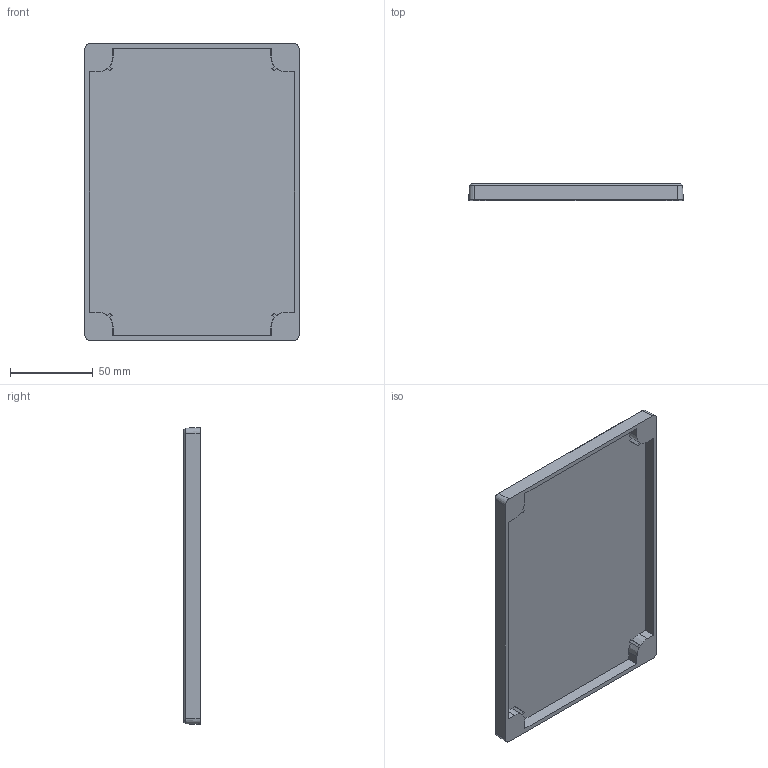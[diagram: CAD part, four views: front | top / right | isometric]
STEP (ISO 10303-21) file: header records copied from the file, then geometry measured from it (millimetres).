
FILE_DESCRIPTION (( 'STEP AP203' ), '1' );
FILE_NAME ('FIBOX_MNX15010C.STEP', '2005-06-30T06:50:23', ( ' ' ), ( ' ' ), 'SwSTEP 2.0', 'SolidWorks 2005143', '' );
FILE_SCHEMA (( 'CONFIG_CONTROL_DESIGN' ));
Length unit declared in the file: millimetre
Products named in the file (1): FIBOX_MNX15010C
Bounding box: 130 x 10 x 180 mm (x, y, z)
Volume: 75320.7 mm3; surface area: 57623.9 mm2
Topology: 1 solids, 1 shells, 72 faces, 184 edges, 120 vertices
Faces by surface type: plane 40, cone 20, cylinder 12
Entity records: 2277 total; most frequent: CARTESIAN_POINT 425, DIRECTION 374, ORIENTED_EDGE 368, EDGE_CURVE 184, AXIS2_PLACEMENT_3D 133, VERTEX_POINT 120, VECTOR 108, LINE 108
